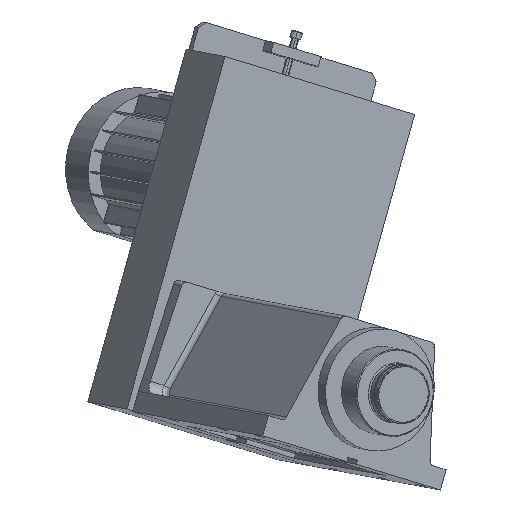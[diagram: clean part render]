
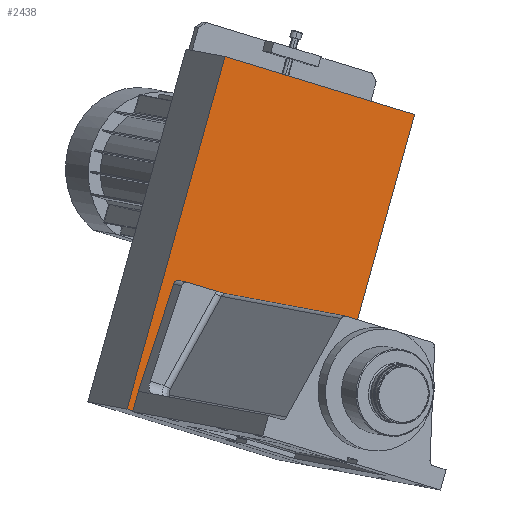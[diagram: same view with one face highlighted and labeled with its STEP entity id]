
A CAD part, top view. The second image highlights one B-rep face of the part: STEP entity #2438.
In plain terms, the highlighted planar face has unit normal (0.464, -0.088, 0.882).
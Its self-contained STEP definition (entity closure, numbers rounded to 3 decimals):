
#91=CARTESIAN_POINT('',(9.738,-107.924,-58.212));
#92=VERTEX_POINT('',#91);
#99=CARTESIAN_POINT('',(17.506,-80.014,-59.516));
#100=VERTEX_POINT('',#99);
#101=CARTESIAN_POINT('',(9.738,-107.924,-58.212));
#102=DIRECTION('',(0.268,0.962,-0.045));
#103=VECTOR('',#102,29.);
#104=LINE('',#101,#103);
#105=EDGE_CURVE('',#92,#100,#104,.T.);
#131=CARTESIAN_POINT('',(-177.404,154.685,66.385));
#132=VERTEX_POINT('',#131);
#263=CARTESIAN_POINT('',(49.062,85.762,-59.594));
#264=VERTEX_POINT('',#263);
#271=CARTESIAN_POINT('',(-177.404,154.685,66.385));
#272=DIRECTION('',(0.845,-0.257,-0.47));
#273=VECTOR('',#272,268.157);
#274=LINE('',#271,#273);
#275=EDGE_CURVE('',#132,#264,#274,.T.);
#303=CARTESIAN_POINT('',(-235.853,-2.907,81.423));
#304=VERTEX_POINT('',#303);
#311=CARTESIAN_POINT('',(-243.621,-30.817,82.727));
#312=VERTEX_POINT('',#311);
#313=CARTESIAN_POINT('',(-235.853,-2.907,81.423));
#314=DIRECTION('',(-0.268,-0.962,0.045));
#315=VECTOR('',#314,29.);
#316=LINE('',#313,#315);
#317=EDGE_CURVE('',#304,#312,#316,.T.);
#666=CARTESIAN_POINT('',(53.484,76.997,-62.793));
#667=VERTEX_POINT('',#666);
#690=CARTESIAN_POINT('',(53.484,76.997,-62.793));
#691=DIRECTION('',(-0.223,-0.975,0.02));
#692=VECTOR('',#691,161.113);
#693=LINE('',#690,#692);
#694=EDGE_CURVE('',#667,#100,#693,.T.);
#712=CARTESIAN_POINT('',(47.053,78.544,-59.257));
#713=DIRECTION('',(0.464,-0.088,0.882));
#714=DIRECTION('',(0.776,0.521,-0.356));
#715=AXIS2_PLACEMENT_3D('',#712,#713,#714);
#716=CIRCLE('',#715,7.5);
#717=EDGE_CURVE('',#667,#264,#716,.T.);
#868=CARTESIAN_POINT('',(-185.633,149.769,70.223));
#869=VERTEX_POINT('',#868);
#876=CARTESIAN_POINT('',(-235.853,-2.907,81.423));
#877=DIRECTION('',(0.312,0.948,-0.07));
#878=VECTOR('',#877,161.113);
#879=LINE('',#876,#878);
#880=EDGE_CURVE('',#304,#869,#879,.T.);
#901=CARTESIAN_POINT('',(-179.413,147.467,66.722));
#902=DIRECTION('',(0.464,-0.088,0.882));
#903=DIRECTION('',(-0.387,0.875,0.291));
#904=AXIS2_PLACEMENT_3D('',#901,#902,#903);
#905=CIRCLE('',#904,7.5);
#906=EDGE_CURVE('',#132,#869,#905,.T.);
#2150=CARTESIAN_POINT('',(-112.237,474.128,63.942));
#2151=VERTEX_POINT('',#2150);
#2152=CARTESIAN_POINT('',(158.012,391.881,-86.393));
#2153=VERTEX_POINT('',#2152);
#2154=CARTESIAN_POINT('',(-112.237,474.128,63.942));
#2155=DIRECTION('',(0.845,-0.257,-0.47));
#2156=VECTOR('',#2155,320.);
#2157=LINE('',#2154,#2156);
#2158=EDGE_CURVE('',#2151,#2153,#2157,.T.);
#2331=CARTESIAN_POINT('',(-252.066,-28.246,87.425));
#2332=VERTEX_POINT('',#2331);
#2333=CARTESIAN_POINT('',(-252.066,-28.246,87.425));
#2334=DIRECTION('',(0.268,0.962,-0.045));
#2335=VECTOR('',#2334,522.0);
#2336=LINE('',#2333,#2335);
#2337=EDGE_CURVE('',#2332,#2151,#2336,.T.);
#2362=CARTESIAN_POINT('',(18.183,-110.494,-62.91));
#2363=VERTEX_POINT('',#2362);
#2364=CARTESIAN_POINT('',(18.183,-110.494,-62.91));
#2365=DIRECTION('',(-0.845,0.257,0.47));
#2366=VECTOR('',#2365,10.);
#2367=LINE('',#2364,#2366);
#2368=EDGE_CURVE('',#2363,#92,#2367,.T.);
#2373=CARTESIAN_POINT('',(-243.621,-30.817,82.727));
#2374=DIRECTION('',(-0.845,0.257,0.47));
#2375=VECTOR('',#2374,10.);
#2376=LINE('',#2373,#2375);
#2377=EDGE_CURVE('',#312,#2332,#2376,.T.);
#2402=CARTESIAN_POINT('',(158.012,391.881,-86.393));
#2403=DIRECTION('',(-0.268,-0.962,0.045));
#2404=VECTOR('',#2403,522.0);
#2405=LINE('',#2402,#2404);
#2406=EDGE_CURVE('',#2153,#2363,#2405,.T.);
#2419=CARTESIAN_POINT('',(-47.027,181.817,0.516));
#2420=DIRECTION('',(0.464,-0.088,0.882));
#2421=DIRECTION('',(0.845,-0.257,-0.47));
#2422=AXIS2_PLACEMENT_3D('',#2419,#2420,#2421);
#2423=PLANE('',#2422);
#2424=ORIENTED_EDGE('',*,*,#317,.F.);
#2425=ORIENTED_EDGE('',*,*,#880,.T.);
#2426=ORIENTED_EDGE('',*,*,#906,.F.);
#2427=ORIENTED_EDGE('',*,*,#275,.T.);
#2428=ORIENTED_EDGE('',*,*,#717,.F.);
#2429=ORIENTED_EDGE('',*,*,#694,.T.);
#2430=ORIENTED_EDGE('',*,*,#105,.F.);
#2431=ORIENTED_EDGE('',*,*,#2368,.F.);
#2432=ORIENTED_EDGE('',*,*,#2406,.F.);
#2433=ORIENTED_EDGE('',*,*,#2158,.F.);
#2434=ORIENTED_EDGE('',*,*,#2337,.F.);
#2435=ORIENTED_EDGE('',*,*,#2377,.F.);
#2436=EDGE_LOOP('',(#2424,#2425,#2426,#2427,#2428,#2429,#2430,#2431,#2432,#2433,#2434,#2435));
#2437=FACE_OUTER_BOUND('',#2436,.T.);
#2438=ADVANCED_FACE('',(#2437),#2423,.T.);
